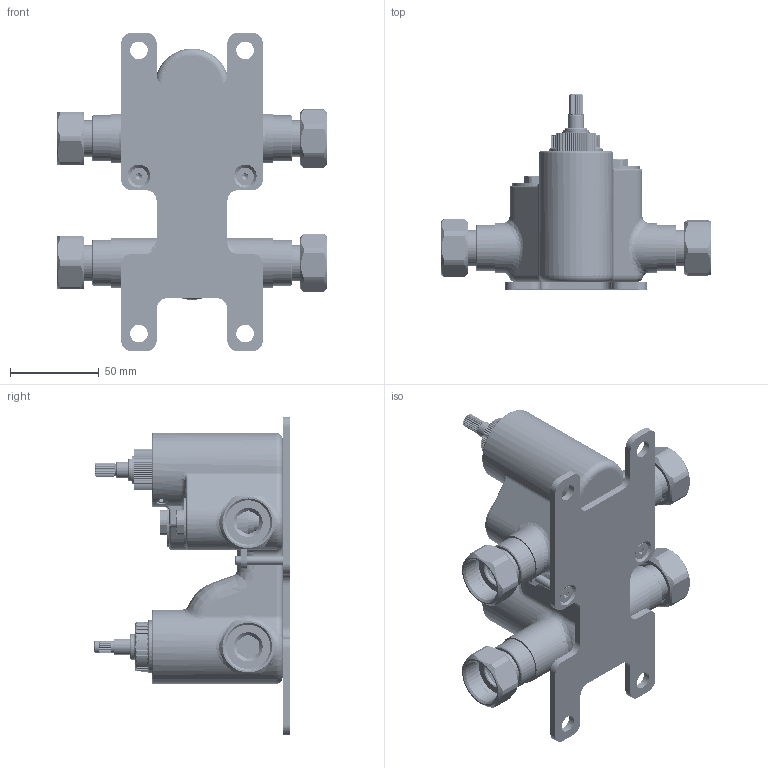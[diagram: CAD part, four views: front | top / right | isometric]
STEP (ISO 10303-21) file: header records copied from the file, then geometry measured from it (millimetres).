
FILE_DESCRIPTION((''),'2;1');
FILE_NAME('57035--00_ASM','2022-05-11T07:42:11',('lalo2'),(''),'CREO PARAMETRIC BY PTC INC, 2018190','CREO PARAMETRIC BY PTC INC, 2018190','');
FILE_SCHEMA(('CONFIG_CONTROL_DESIGN'));
Length unit declared in the file: millimetre
Products named in the file (28): 4496185; 4496485; 06747621_2; 06747621_1; 06747621_ASM; 06001954; 06002034; 4496500_ASM; 43902--_1; 43902--_2; 43902--_3; 43902--_4; 43902--_ASM; 1007651; 1004299; 43950--; 4496800_01; 4496800_2; 4496800_NEW1_ASM; 4496600_01; 4496600_2; 4496600_NEW1_ASM; 4496700_ASM; 4608600; 4447485; 70905890; 4617900; 57035--00_ASM
Assembly tree (35 placements, depth 5):
  57035--00_ASM
    4496700_ASM
      4496185
      4496500_ASM  x2
        4496485
        06747621_ASM
          06747621_2
          06747621_1
        06001954
        06002034
      43902--_ASM
        43902--_1
        43902--_2
        43902--_3
        43902--_4
      1007651
      1004299
      43950--
      4496800_NEW1_ASM
        4496800_01
        4496800_2
      4496600_NEW1_ASM
        4496600_01
        4496600_2
    4608600
    4447485  x4
    70905890  x4
    4617900  x2
Bounding box: 153 x 110.4 x 180 mm (x, y, z)
Volume: 304009.2 mm3; surface area: 213233.6 mm2
Topology: 41 solids, 65 shells, 7391 faces, 19267 edges, 11551 vertices
Faces by surface type: cylinder 2039, plane 1752, bspline 1417, torus 1037, cone 841, sphere 281, extrusion 12, revolution 12
Entity records: 264261 total; most frequent: CARTESIAN_POINT 108776, ORIENTED_EDGE 34022, DIRECTION 30886, EDGE_CURVE 17194, AXIS2_PLACEMENT_3D 12598, VERTEX_POINT 10527, CIRCLE 7091, EDGE_LOOP 7002
